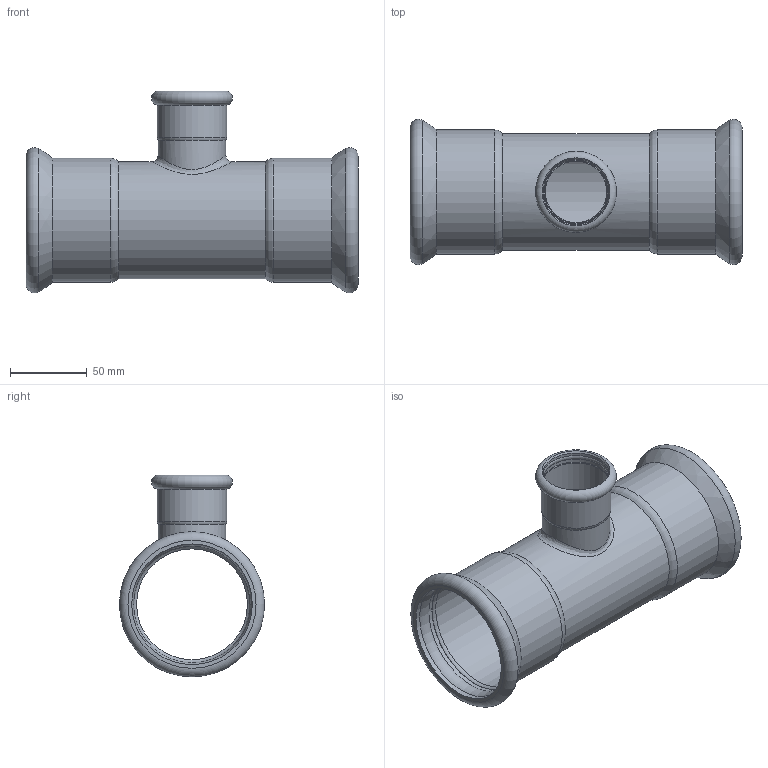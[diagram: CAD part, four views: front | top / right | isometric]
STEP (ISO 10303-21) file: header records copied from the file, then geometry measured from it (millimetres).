
FILE_DESCRIPTION(/* description */ ('TEE RIDOTTO 76,1-42-76,1'),/* implementation_level */ '2;1');
FILE_NAME(/* name */ 'T:\A_ARTICOLI\ARTICOLI PRODOTTI_WEB\Articoli_STEELPRES_WEB\Temporary Step\392076042_Steelpres.ipt.step',/* time_stamp */ '2016-01-19T16:43:05+01:00',/* author */ ('Ghirlinghelli Diego'),/* organization */ (''),/* preprocessor_version */ 'ST-DEVELOPER v15.2',/* originating_system */ 'Autodesk Inventor 2014',/* authorisation */ 'R.M. S.p.A. si riserva a termini di legge la proprietà del presente disegno con divieto di riprodurlo o comunicarlo a terzi senza sua autorizzazione scritta');
FILE_SCHEMA (('AUTOMOTIVE_DESIGN { 1 0 10303 214 3 1 1 }'));
Length unit declared in the file: millimetre
Products named in the file (1): 392076042_Steelpres
Bounding box: 216 x 94.49 x 131.3 mm (x, y, z)
Volume: 155905.7 mm3; surface area: 121547.9 mm2
Topology: 1 solids, 1 shells, 42 faces, 98 edges, 59 vertices
Faces by surface type: cylinder 17, torus 15, bspline 4, cone 3, plane 3
Full cylindrical faces by diameter (mm): 40 x1, 41 x1, 42.4 x1, 42.7 x2, 44 x1, 45.4 x1, 72.1 x1, 76.1 x1, 76.7 x2, 78.5 x4, 80.7 x2
Entity records: 1331 total; most frequent: CARTESIAN_POINT 556, DIRECTION 168, ORIENTED_EDGE 102, AXIS2_PLACEMENT_3D 84, EDGE_LOOP 82, EDGE_CURVE 51, VERTEX_POINT 47, CIRCLE 45
